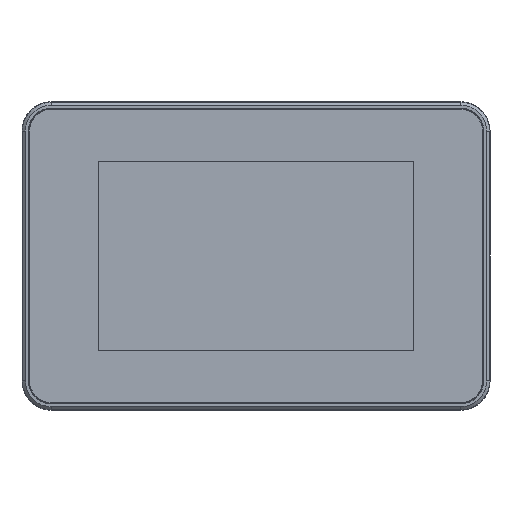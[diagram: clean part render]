
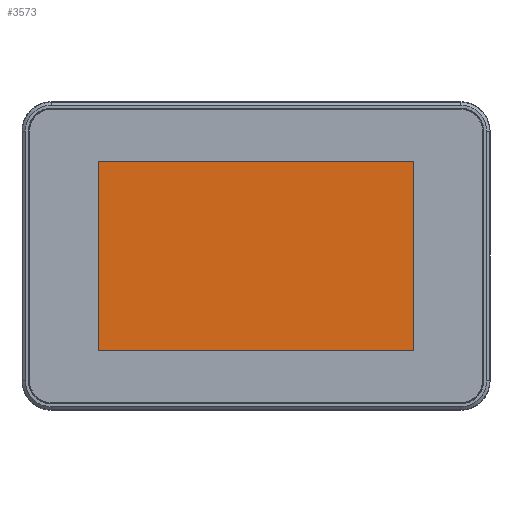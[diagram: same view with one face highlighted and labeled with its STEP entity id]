
A CAD part, top view. The second image highlights one B-rep face of the part: STEP entity #3573.
In plain terms, the highlighted planar face has unit normal (0, 0, 1).
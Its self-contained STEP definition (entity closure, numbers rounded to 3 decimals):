
#3573 = ADVANCED_FACE ( 'NONE', ( #13302 ), #46276, .F. ) ;
#3876 = EDGE_CURVE ( 'NONE', #11949, #46826, #30936, .T. ) ;
#4716 = EDGE_LOOP ( 'NONE', ( #32053, #40895, #13791, #41697 ) ) ;
#6036 = LINE ( 'NONE', #33068, #46630 ) ;
#6466 = DIRECTION ( 'NONE',  ( -1., 0., 0. ) ) ;
#7513 = EDGE_CURVE ( 'NONE', #37026, #39806, #32621, .T. ) ;
#8027 = CARTESIAN_POINT ( 'NONE',  ( -118.923, 46.369, 46.066 ) ) ;
#9811 = DIRECTION ( 'NONE',  ( -1., 0., 0. ) ) ;
#11949 = VERTEX_POINT ( 'NONE', #13134 ) ;
#13134 = CARTESIAN_POINT ( 'NONE',  ( -118.923, -19.031, 46.066 ) ) ;
#13302 = FACE_OUTER_BOUND ( 'NONE', #4716, .T. ) ;
#13791 = ORIENTED_EDGE ( 'NONE', *, *, #7513, .F. ) ;
#13862 = AXIS2_PLACEMENT_3D ( 'NONE', #31707, #42319, #9811 ) ;
#21102 = DIRECTION ( 'NONE',  ( 0., -1., 0. ) ) ;
#25704 = VECTOR ( 'NONE', #21102, 1000. ) ;
#25808 = DIRECTION ( 'NONE',  ( 1., 0., 0. ) ) ;
#26880 = CARTESIAN_POINT ( 'NONE',  ( -118.923, 46.369, 46.066 ) ) ;
#30553 = EDGE_CURVE ( 'NONE', #46826, #37026, #6036, .T. ) ;
#30936 = LINE ( 'NONE', #8027, #32089 ) ;
#31707 = CARTESIAN_POINT ( 'NONE',  ( 11.292, -34.723, 46.066 ) ) ;
#32053 = ORIENTED_EDGE ( 'NONE', *, *, #3876, .F. ) ;
#32089 = VECTOR ( 'NONE', #37137, 1000. ) ;
#32621 = LINE ( 'NONE', #43059, #25704 ) ;
#33068 = CARTESIAN_POINT ( 'NONE',  ( -10.223, 46.369, 46.066 ) ) ;
#34398 = VECTOR ( 'NONE', #6466, 1000. ) ;
#34911 = EDGE_CURVE ( 'NONE', #39806, #11949, #36077, .T. ) ;
#36077 = LINE ( 'NONE', #39117, #34398 ) ;
#37026 = VERTEX_POINT ( 'NONE', #46063 ) ;
#37137 = DIRECTION ( 'NONE',  ( 0., 1., 0. ) ) ;
#37426 = CARTESIAN_POINT ( 'NONE',  ( -10.223, -19.031, 46.066 ) ) ;
#39117 = CARTESIAN_POINT ( 'NONE',  ( -118.923, -19.031, 46.066 ) ) ;
#39806 = VERTEX_POINT ( 'NONE', #37426 ) ;
#40895 = ORIENTED_EDGE ( 'NONE', *, *, #34911, .F. ) ;
#41697 = ORIENTED_EDGE ( 'NONE', *, *, #30553, .F. ) ;
#42319 = DIRECTION ( 'NONE',  ( 0., 0., -1. ) ) ;
#43059 = CARTESIAN_POINT ( 'NONE',  ( -10.223, -19.031, 46.066 ) ) ;
#46063 = CARTESIAN_POINT ( 'NONE',  ( -10.223, 46.369, 46.066 ) ) ;
#46276 = PLANE ( 'NONE',  #13862 ) ;
#46630 = VECTOR ( 'NONE', #25808, 1000. ) ;
#46826 = VERTEX_POINT ( 'NONE', #26880 ) ;
